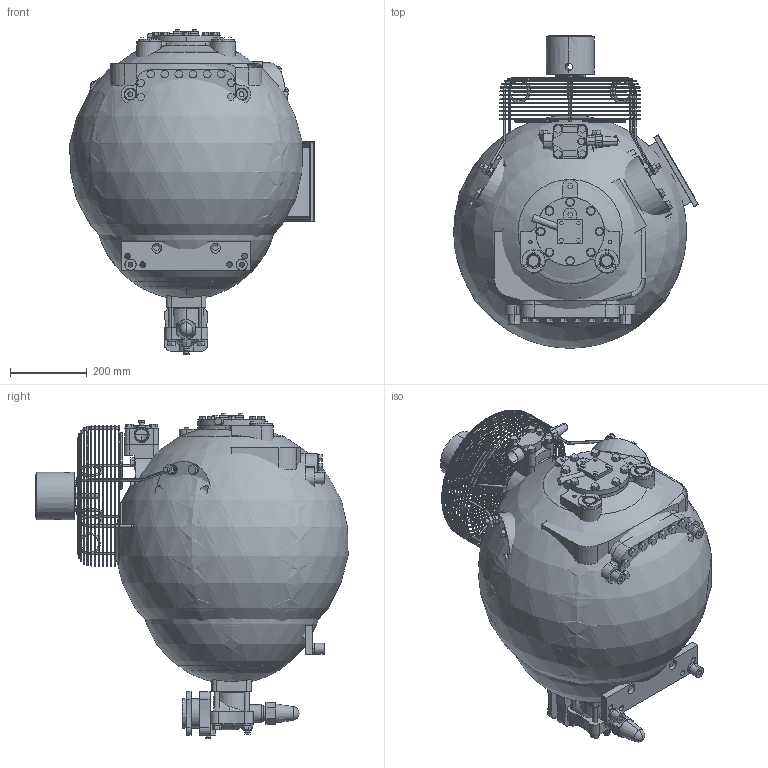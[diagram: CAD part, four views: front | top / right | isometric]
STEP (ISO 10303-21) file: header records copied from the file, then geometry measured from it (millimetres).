
FILE_DESCRIPTION((''),'2;1');
FILE_NAME('PRT0001','2004-01-22T',('kannanb'),(''),'PRO/ENGINEER BY PARAMETRIC TECHNOLOGY CORPORATION, 2001280','PRO/ENGINEER BY PARAMETRIC TECHNOLOGY CORPORATION, 2001280','');
FILE_SCHEMA(('CONFIG_CONTROL_DESIGN','SHAPE_APPEARANCE_LAYERS_GROUPS'));
Products named in the file (1): PRT0001
Bounding box: 635.65 x 811.69 x 846.75 mm (x, y, z)
Surface area: 8088456.3 mm2 (no closed solid volume)
Topology: 0 solids, 0 shells, 1562 faces, 7908 edges, 7785 vertices
Faces by surface type: bspline 1428, torus 124, sphere 10
Entity records: 208166 total; most frequent: CARTESIAN_POINT 117179, DIRECTION 11061, TRIMMED_CURVE 9815, VECTOR 8837, LINE 8837, DEFINITIONAL_REPRESENTATION 7660, PCURVE 7660, COMPOSITE_CURVE_SEGMENT 7660
